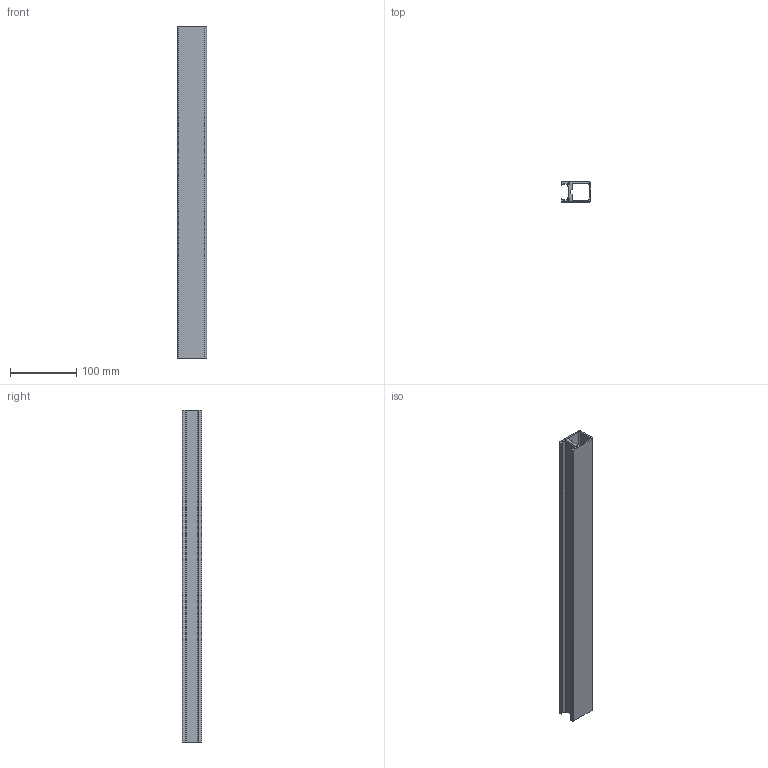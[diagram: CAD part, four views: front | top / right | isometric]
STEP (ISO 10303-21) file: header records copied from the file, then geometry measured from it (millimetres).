
FILE_DESCRIPTION (( 'STEP AP214' ), '1' );
FILE_NAME ('A40768.step', '2024-12-03T16:12:51', ( '' ), ( '' ), 'SwSTEP 2.0', 'SolidWorks 2023', '' );
FILE_SCHEMA (( 'AUTOMOTIVE_DESIGN' ));
Length unit declared in the file: millimetre
Products named in the file (1): A40768
Bounding box: 44 x 30 x 500 mm (x, y, z)
Volume: 189812.3 mm3; surface area: 145846.8 mm2
Topology: 1 solids, 1 shells, 42 faces, 120 edges, 80 vertices
Faces by surface type: plane 32, cylinder 10
Full cylindrical faces by diameter (mm): 3 x2
Entity records: 1389 total; most frequent: CARTESIAN_POINT 241, ORIENTED_EDGE 236, DIRECTION 224, EDGE_CURVE 118, LINE 98, VECTOR 98, VERTEX_POINT 80, AXIS2_PLACEMENT_3D 63
